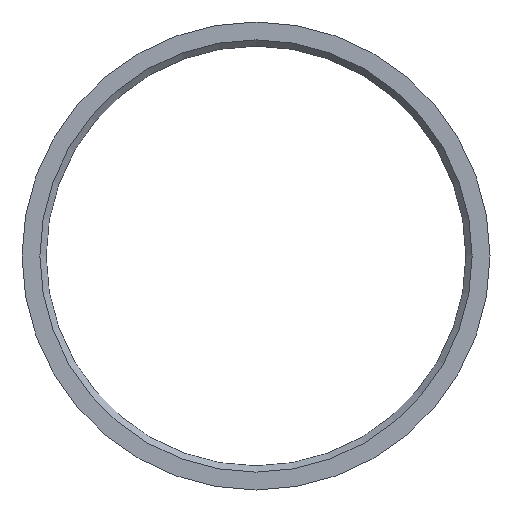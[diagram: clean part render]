
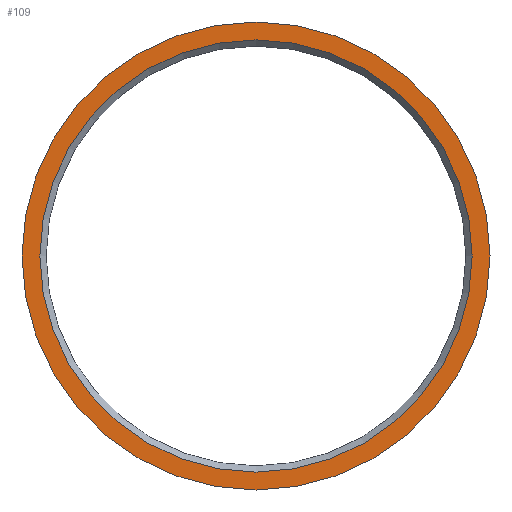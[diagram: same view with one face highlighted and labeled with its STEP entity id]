
A CAD part, front view. The second image highlights one B-rep face of the part: STEP entity #109.
In plain terms, the highlighted planar face has unit normal (0, -1, 0).
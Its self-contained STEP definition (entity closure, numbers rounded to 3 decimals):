
#16=FACE_BOUND('',#34,.T.);
#18=PLANE('',#144);
#25=FACE_OUTER_BOUND('',#33,.T.);
#33=EDGE_LOOP('',(#90));
#34=EDGE_LOOP('',(#91));
#51=CIRCLE('',#143,34.45);
#52=CIRCLE('',#145,37.3);
#59=VERTEX_POINT('',#202);
#60=VERTEX_POINT('',#206);
#70=EDGE_CURVE('',#59,#59,#51,.T.);
#71=EDGE_CURVE('',#60,#60,#52,.T.);
#90=ORIENTED_EDGE('',*,*,#71,.F.);
#91=ORIENTED_EDGE('',*,*,#70,.F.);
#109=ADVANCED_FACE('',(#25,#16),#18,.F.);
#143=AXIS2_PLACEMENT_3D('',#204,#171,#172);
#144=AXIS2_PLACEMENT_3D('',#205,#173,#174);
#145=AXIS2_PLACEMENT_3D('',#207,#175,#176);
#171=DIRECTION('center_axis',(0.,-1.,0.));
#172=DIRECTION('ref_axis',(1.,0.,0.));
#173=DIRECTION('center_axis',(0.,1.,0.));
#174=DIRECTION('ref_axis',(0.,0.,1.));
#175=DIRECTION('center_axis',(0.,1.,0.));
#176=DIRECTION('ref_axis',(-1.,0.,0.));
#202=CARTESIAN_POINT('',(-34.45,0.,0.));
#204=CARTESIAN_POINT('Origin',(0.,0.,0.));
#205=CARTESIAN_POINT('Origin',(0.,0.,0.));
#206=CARTESIAN_POINT('',(-37.3,0.,0.));
#207=CARTESIAN_POINT('Origin',(0.,0.,0.));
